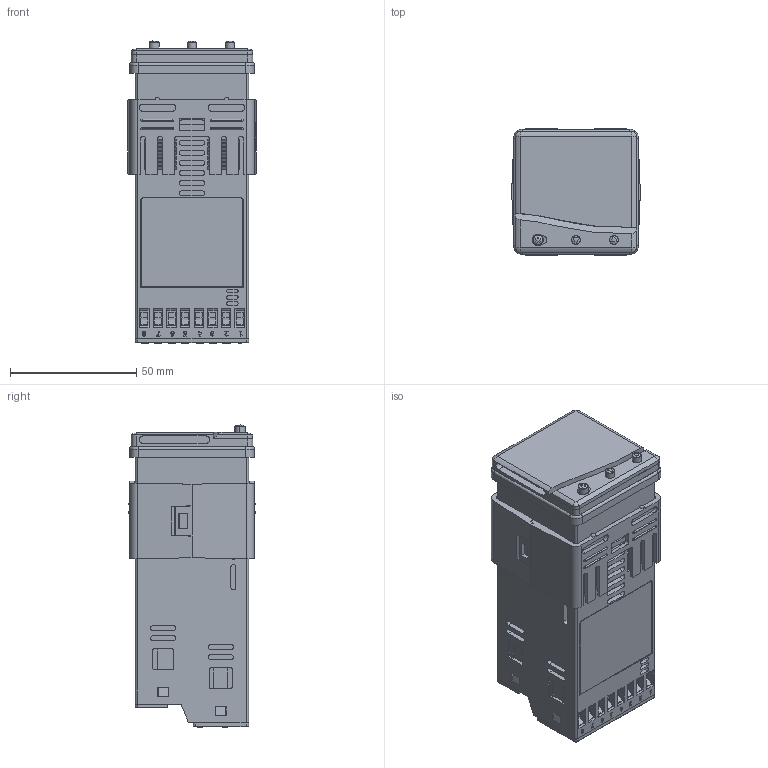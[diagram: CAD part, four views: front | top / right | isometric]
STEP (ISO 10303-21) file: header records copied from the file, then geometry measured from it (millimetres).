
FILE_DESCRIPTION (( 'STEP AP203' ), '1' );
FILE_NAME ('9400 Single Loop Temperature Controller.STEP', '2019-07-18T15:53:06', ( '' ), ( '' ), 'SwSTEP 2.0', 'SolidWorks 2017', '' );
FILE_SCHEMA (( 'CONFIG_CONTROL_DESIGN' ));
Length unit declared in the file: millimetre
Products named in the file (6): CAL 9300 Split Panel Clamp Pt.No. 0943061-1; 9400 Single Loop Temperature Controller; 9400 Single Loop Temperature Controller-1
Assembly tree (3 placements, depth 2):
  9400 Single Loop Temperature Controller
    9400 Single Loop Temperature Controller-1
    CAL 9300 Split Panel Clamp Pt.No. 0943061-1  x2
  CAL 9300 Split Panel Clamp Pt.No. 0943061-1
  CAL 9300 Split Panel Clamp Pt.No. 0943061-1
  9400 Single Loop Temperature Controller-1
Bounding box: 50.92 x 50.12 x 119.55 mm (x, y, z)
Volume: 229255 mm3; surface area: 62308.4 mm2
Topology: 57 solids, 57 shells, 2424 faces, 6123 edges, 3948 vertices
Faces by surface type: plane 1538, cylinder 385, bspline 280, torus 111, cone 84, sphere 26
Entity records: 83845 total; most frequent: CARTESIAN_POINT 29457, ORIENTED_EDGE 11474, DIRECTION 10204, EDGE_CURVE 5737, LINE 4110, VECTOR 4110, VERTEX_POINT 3722, AXIS2_PLACEMENT_3D 3047
